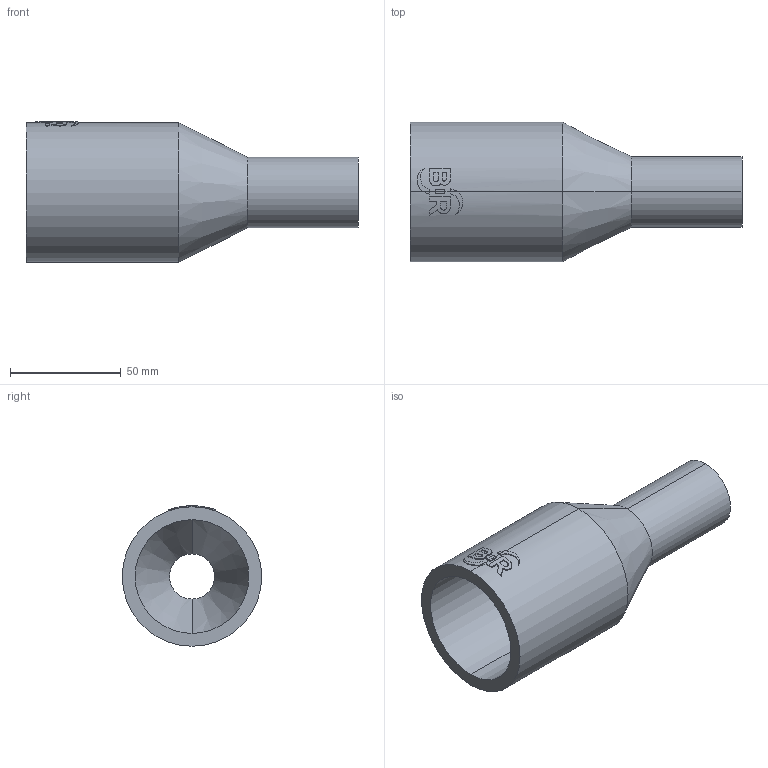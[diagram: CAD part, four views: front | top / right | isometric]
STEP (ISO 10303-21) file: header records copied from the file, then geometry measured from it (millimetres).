
FILE_DESCRIPTION (( 'STEP AP214' ), '1' );
FILE_NAME ('2323110815.STEP', '2018-07-20T11:22:00', ( '' ), ( '' ), 'SwSTEP 2.0', 'SolidWorks 2017', '' );
FILE_SCHEMA (( 'AUTOMOTIVE_DESIGN' ));
Length unit declared in the file: millimetre
Products named in the file (1): 2323110815
Bounding box: 150 x 63 x 63.46 mm (x, y, z)
Volume: 121806.4 mm3; surface area: 43582.5 mm2
Topology: 1 solids, 1 shells, 63 faces, 160 edges, 104 vertices
Faces by surface type: cylinder 31, plane 28, cone 4
Entity records: 3060 total; most frequent: CARTESIAN_POINT 851, ORIENTED_EDGE 320, DIRECTION 296, EDGE_CURVE 160, AXIS2_PLACEMENT_3D 112, VERTEX_POINT 104, VECTOR 72, LINE 72
